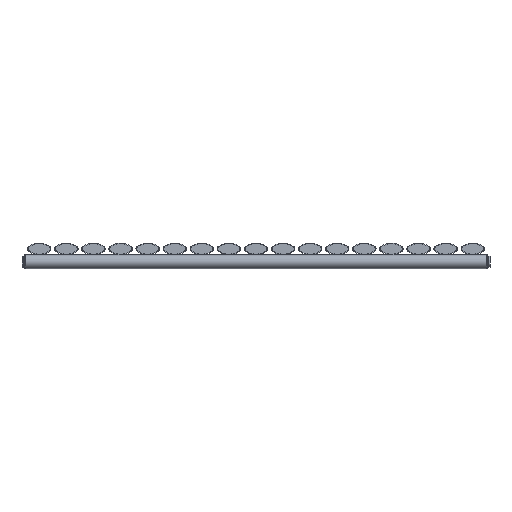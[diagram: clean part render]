
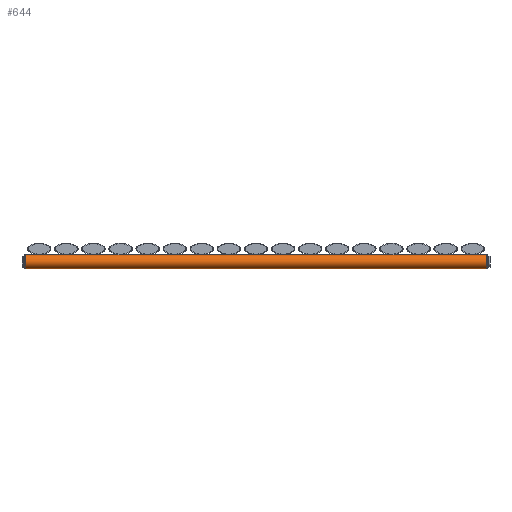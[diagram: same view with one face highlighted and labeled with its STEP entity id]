
A CAD part, left-side view. The second image highlights one B-rep face of the part: STEP entity #644.
In plain terms, the highlighted cylindrical face has radius 15 mm (diameter 30 mm), a full revolution.
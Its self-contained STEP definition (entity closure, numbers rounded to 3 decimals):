
#227=FACE_BOUND('',#276,.T.);
#239=FACE_OUTER_BOUND('',#275,.T.);
#275=EDGE_LOOP('',(#484));
#276=EDGE_LOOP('',(#485));
#323=CIRCLE('',#724,15.);
#324=CIRCLE('',#725,15.);
#358=VERTEX_POINT('',#1065);
#359=VERTEX_POINT('',#1067);
#411=EDGE_CURVE('',#358,#358,#323,.T.);
#412=EDGE_CURVE('',#359,#359,#324,.T.);
#484=ORIENTED_EDGE('',*,*,#411,.F.);
#485=ORIENTED_EDGE('',*,*,#412,.F.);
#630=CYLINDRICAL_SURFACE('',#723,15.);
#644=ADVANCED_FACE('',(#239,#227),#630,.T.);
#723=AXIS2_PLACEMENT_3D('',#1064,#828,#829);
#724=AXIS2_PLACEMENT_3D('',#1066,#830,#831);
#725=AXIS2_PLACEMENT_3D('',#1068,#832,#833);
#828=DIRECTION('center_axis',(0.,0.,1.));
#829=DIRECTION('ref_axis',(-1.,0.,0.));
#830=DIRECTION('center_axis',(0.,0.,1.));
#831=DIRECTION('ref_axis',(-1.,0.,0.));
#832=DIRECTION('center_axis',(0.,0.,-1.));
#833=DIRECTION('ref_axis',(-1.,0.,0.));
#1064=CARTESIAN_POINT('Origin',(0.,-15.,0.));
#1065=CARTESIAN_POINT('',(15.,-15.,990.));
#1066=CARTESIAN_POINT('Origin',(0.,-15.,990.));
#1067=CARTESIAN_POINT('',(15.,-15.,0.));
#1068=CARTESIAN_POINT('Origin',(0.,-15.,0.));
